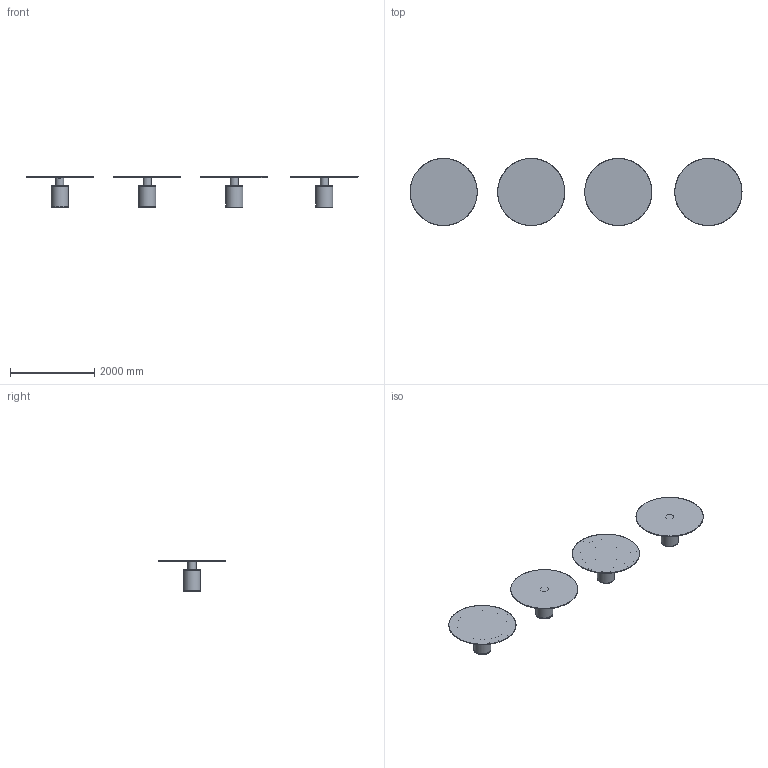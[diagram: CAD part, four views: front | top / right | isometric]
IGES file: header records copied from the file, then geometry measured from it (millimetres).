
Start section: SolidWorks IGES file using NURBS representation for surfaces SolidWorks IGES file using NURBS representation for surfaces SolidWorks IGES file using NURBS representation for surfaces SolidWorks IGES file using NURBS representation for surfaces
Global section: file name: \\fs\Gruppi\Tecnico\UFFICIO TECNICO\PROGETTI in SVILUPPO\2021\CRESO\3D\D160\CRESO -  D160.igs; native system: Rhinoceros ( May  7 2019 ); preprocessor: Trout Lake IGES 012 May  7 2019; date: 210715.134501; units: millimetre
Bounding box: 7898.88 x 1600 x 730 mm (x, y, z)
Surface area: 30506648.2 mm2 (no closed solid volume)
Topology: 0 solids, 0 shells, 540 faces, 2542 edges, 2360 vertices
Faces by surface type: bspline 540
